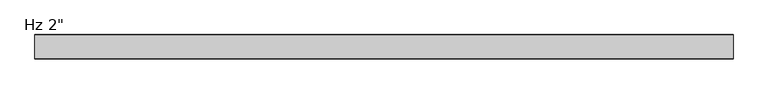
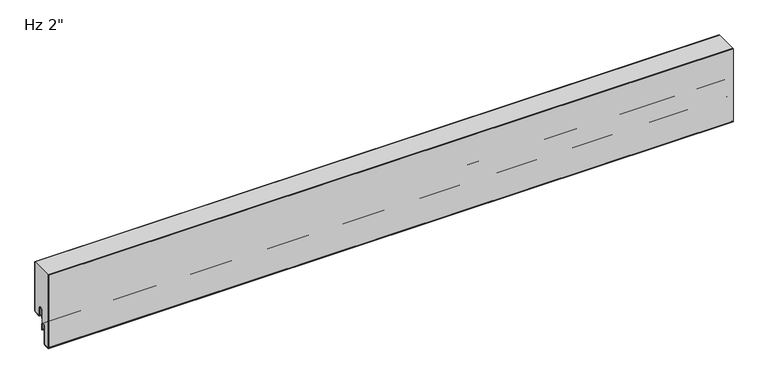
"""IFC4 building model written with IfcOpenShell, lengths in millimetres: plate geometry."""

from ifc_helpers import new_model, si_unit, point, frame, frame_2d, origin, place, context, project, spatial, polyline, circle_curve, trimmed, segment, composite_curve, outline, extrude, source, transform, mapped, element, save


def plate_868071fc(model_context):
    return source(origin(), model_context, "Body", "SweptSolid", [
        extrude(outline(composite_curve([segment(polyline([(-49.8, -50.6719361), (-49.8, 113.4), (-1.0, 113.4), (-1.0, 3.175)]), True, "CONTINUOUS"), segment(trimmed(circle_curve(frame_2d((-2.38125, 3.175)), 1.38125), [point((-1.0, 3.175))], [point((-2.38125, 1.79375))], False, "CARTESIAN"), True, "CONTINUOUS"), segment(polyline([(-2.38125, 1.79375), (-15.08125, 1.79375)]), True, "CONTINUOUS"), segment(trimmed(circle_curve(frame_2d((-15.08125, 3.175)), 1.38125), [point((-15.08125, 1.79375))], [point((-16.4625, 3.175))], False, "CARTESIAN"), True, "CONTINUOUS"), segment(polyline([(-16.4625, 3.175), (-16.4625, 19.05)]), True, "CONTINUOUS"), segment(trimmed(circle_curve(frame_2d((-21.43125, 19.05)), 4.96875), [point((-16.4625, 19.05))], [point((-26.4, 19.05))], True, "CARTESIAN"), True, "CONTINUOUS"), segment(polyline([(-26.4, 19.05), (-26.4, -6.9375), (-30.95625, -6.9375)]), True, "CONTINUOUS"), segment(trimmed(circle_curve(frame_2d((-30.95625, -11.90625)), 4.96875), [point((-30.95625, -6.9375))], [point((-35.925, -11.90625))], True, "CARTESIAN"), True, "CONTINUOUS"), segment(polyline([(-35.925, -11.90625), (-35.925, -50.0895546)]), True, "CONTINUOUS"), segment(trimmed(circle_curve(frame_2d((-37.30625, -50.0895546)), 1.38125), [point((-35.925, -50.0895546))], [point((-37.233961, -51.4689117))], False, "CARTESIAN"), True, "CONTINUOUS"), segment(polyline([(-37.233961, -51.4689117), (-48.346461, -52.0512931)]), True, "CONTINUOUS"), segment(trimmed(circle_curve(frame_2d((-48.41875, -50.6719361)), 1.38125), [point((-48.346461, -52.0512931))], [point((-49.8, -50.6719361))], False, "CARTESIAN"), True, "CONTINUOUS")], self_intersect=False)), frame((-730.0, 0.0, 0.0), z_axis=(1.0, 0.0, 0.0), x_axis=(0.0, 1.0, 0.0)), (0.0, 0.0, 1.0), 1460.0),
        extrude(outline(composite_curve([segment(polyline([(-25.4, 0.79375), (-26.4, 0.79375), (-26.4, 19.05)]), True, "CONTINUOUS"), segment(trimmed(circle_curve(frame_2d((-21.43125, 19.05)), 4.96875), [point((-26.4, 19.05))], [point((-16.4625, 19.05))], False, "CARTESIAN"), True, "CONTINUOUS"), segment(polyline([(-16.4625, 19.05), (-16.4625, 3.175)]), True, "CONTINUOUS"), segment(trimmed(circle_curve(frame_2d((-15.08125, 3.175)), 1.38125), [point((-16.4625, 3.175))], [point((-15.08125, 1.79375))], True, "CARTESIAN"), True, "CONTINUOUS"), segment(polyline([(-15.08125, 1.79375), (-2.38125, 1.79375)]), True, "CONTINUOUS"), segment(trimmed(circle_curve(frame_2d((-2.38125, 3.175)), 1.38125), [point((-2.38125, 1.79375))], [point((-1.0, 3.175))], True, "CARTESIAN"), True, "CONTINUOUS"), segment(polyline([(-1.0, 3.175), (-1.0, 113.4), (0.0, 113.4), (0.0, 3.175)]), True, "CONTINUOUS"), segment(trimmed(circle_curve(frame_2d((-2.38125, 3.175)), 2.38125), [point((0.0, 3.175))], [point((-2.38125, 0.79375))], False, "CARTESIAN"), True, "CONTINUOUS"), segment(polyline([(-2.38125, 0.79375), (-15.08125, 0.79375)]), True, "CONTINUOUS"), segment(trimmed(circle_curve(frame_2d((-15.08125, 3.175)), 2.38125), [point((-15.08125, 0.79375))], [point((-17.4625, 3.175))], False, "CARTESIAN"), True, "CONTINUOUS"), segment(polyline([(-17.4625, 3.175), (-17.4625, 19.05)]), True, "CONTINUOUS"), segment(trimmed(circle_curve(frame_2d((-21.43125, 19.05)), 3.96875), [point((-17.4625, 19.05))], [point((-25.4, 19.05))], True, "CARTESIAN"), True, "CONTINUOUS"), segment(polyline([(-25.4, 19.05), (-25.4, 0.79375)]), True, "CONTINUOUS")], self_intersect=False)), frame((-730.0, 0.0, 0.0), z_axis=(1.0, 0.0, 0.0), x_axis=(0.0, 1.0, 0.0)), (0.0, 0.0, 1.0), 1460.0),
        extrude(outline(composite_curve([segment(trimmed(circle_curve(frame_2d((-26.19375, -23.2314549)), 0.79375), [point((-25.4, -23.2314549))], [point((-26.9875, -23.2314549))], False, "CARTESIAN"), True, "CONTINUOUS"), segment(polyline([(-26.9875, -23.2314549), (-26.9875, -11.9205174)]), True, "CONTINUOUS"), segment(trimmed(circle_curve(frame_2d((-30.95625, -11.9205174)), 3.96875), [point((-26.9875, -11.9205174))], [point((-34.925, -11.9205174))], True, "CARTESIAN"), True, "CONTINUOUS"), segment(polyline([(-34.925, -11.9205174), (-34.925, -50.1038221)]), True, "CONTINUOUS"), segment(trimmed(circle_curve(frame_2d((-37.30625, -50.1038221)), 2.38125), [point((-34.925, -50.1038221))], [point((-37.181625, -52.4818086))], False, "CARTESIAN"), True, "CONTINUOUS"), segment(polyline([(-37.181625, -52.4818086), (-48.294125, -53.0641901)]), True, "CONTINUOUS"), segment(trimmed(circle_curve(frame_2d((-48.41875, -50.6862035)), 2.38125), [point((-48.294125, -53.0641901))], [point((-50.8, -50.6862035))], False, "CARTESIAN"), True, "CONTINUOUS"), segment(polyline([(-50.8, -50.6862035), (-50.8, 113.4), (-49.8, 113.4), (-49.8, -50.6862035)]), True, "CONTINUOUS"), segment(trimmed(circle_curve(frame_2d((-48.41875, -50.6862035)), 1.38125), [point((-49.8, -50.6862035))], [point((-48.346461, -52.0655606))], True, "CARTESIAN"), True, "CONTINUOUS"), segment(polyline([(-48.346461, -52.0655606), (-37.233961, -51.4831791)]), True, "CONTINUOUS"), segment(trimmed(circle_curve(frame_2d((-37.30625, -50.1038221)), 1.38125), [point((-37.233961, -51.4831791))], [point((-35.925, -50.1038221))], True, "CARTESIAN"), True, "CONTINUOUS"), segment(polyline([(-35.925, -50.1038221), (-35.925, -11.9205174)]), True, "CONTINUOUS"), segment(trimmed(circle_curve(frame_2d((-30.95625, -11.9205174)), 4.96875), [point((-35.925, -11.9205174))], [point((-25.9875, -11.9205174))], False, "CARTESIAN"), True, "CONTINUOUS"), segment(polyline([(-25.9875, -11.9205174), (-26.19375, -13.5080174), (-25.4, -13.5080174), (-25.4, -23.2314549)]), True, "CONTINUOUS")], self_intersect=False)), frame((-730.0, 0.0, 0.0), z_axis=(1.0, 0.0, 0.0), x_axis=(0.0, 1.0, 0.0)), (0.0, 0.0, 1.0), 1460.0),
    ])


if __name__ == "__main__":
    model = new_model("IFC4")
    model_context = context("Model", 3, world=origin())
    ifc_project = project(units=[si_unit("LENGTHUNIT", "METRE", prefix="MILLI")], contexts=[model_context])
    site = spatial("IfcSite", under=ifc_project)
    building = spatial("IfcBuilding", under=site)
    placement = place(None, origin())
    plate_shape = plate_868071fc(model_context)
    element("IfcPlate", 1, ObjectType="KIP-30-DWTR-R19-CP-Hz-F : Hz 2\"", at=placement, inside=building, context=model_context, shape_type="MappedRepresentation", body=[
        mapped(plate_shape, transform((0.0, 0.0, 0.0), x_axis=(1.0, 0.0, 0.0), y_axis=(0.0, 1.0, 0.0), z_axis=(0.0, 0.0, 1.0))),
    ])
    save(model, "model.ifc")
